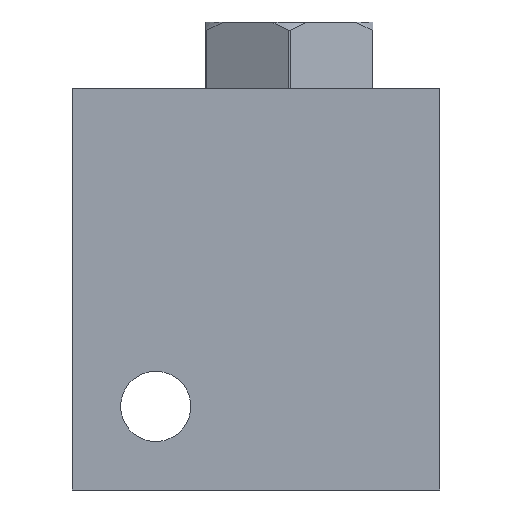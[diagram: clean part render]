
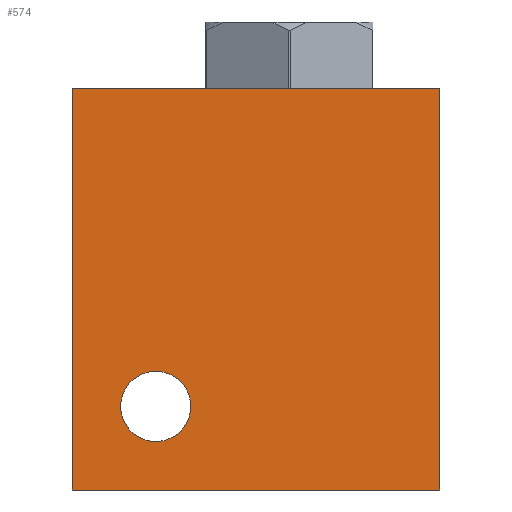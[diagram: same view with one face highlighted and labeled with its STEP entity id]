
A CAD part, left-side view. The second image highlights one B-rep face of the part: STEP entity #574.
In plain terms, the highlighted planar face has unit normal (-1, 0, 0).
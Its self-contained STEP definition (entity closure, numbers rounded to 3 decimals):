
#20=FACE_BOUND('',#131,.T.);
#21=FACE_BOUND('',#132,.T.);
#49=CIRCLE('',#613,2.1);
#131=EDGE_LOOP('',(#466));
#132=EDGE_LOOP('',(#467,#468,#469,#470));
#168=LINE('',#963,#204);
#170=LINE('',#967,#206);
#171=LINE('',#969,#207);
#172=LINE('',#970,#208);
#204=VECTOR('',#778,24.);
#206=VECTOR('',#782,22.);
#207=VECTOR('',#783,24.);
#208=VECTOR('',#784,22.);
#259=VERTEX_POINT('',#922);
#271=VERTEX_POINT('',#960);
#272=VERTEX_POINT('',#962);
#273=VERTEX_POINT('',#966);
#274=VERTEX_POINT('',#968);
#326=EDGE_CURVE('',#259,#259,#49,.T.);
#342=EDGE_CURVE('',#272,#271,#168,.T.);
#344=EDGE_CURVE('',#271,#273,#170,.T.);
#345=EDGE_CURVE('',#274,#273,#171,.T.);
#346=EDGE_CURVE('',#272,#274,#172,.T.);
#466=ORIENTED_EDGE('',*,*,#326,.T.);
#467=ORIENTED_EDGE('',*,*,#344,.T.);
#468=ORIENTED_EDGE('',*,*,#345,.F.);
#469=ORIENTED_EDGE('',*,*,#346,.F.);
#470=ORIENTED_EDGE('',*,*,#342,.T.);
#509=PLANE('',#635);
#574=ADVANCED_FACE('',(#20,#21),#509,.T.);
#613=AXIS2_PLACEMENT_3D('',#923,#729,#730);
#635=AXIS2_PLACEMENT_3D('',#965,#780,#781);
#729=DIRECTION('center_axis',(1.,0.,0.));
#730=DIRECTION('ref_axis',(0.,0.,1.));
#778=DIRECTION('',(0.,0.,1.));
#780=DIRECTION('center_axis',(-1.,0.,0.));
#781=DIRECTION('ref_axis',(0.,0.,1.));
#782=DIRECTION('',(0.,1.,0.));
#783=DIRECTION('',(0.,0.,1.));
#784=DIRECTION('',(0.,1.,0.));
#922=CARTESIAN_POINT('',(-6.,6.,2.9));
#923=CARTESIAN_POINT('Origin',(-6.,6.,5.));
#960=CARTESIAN_POINT('',(-6.,-11.,24.));
#962=CARTESIAN_POINT('',(-6.,-11.,0.));
#963=CARTESIAN_POINT('',(-6.,-11.,0.));
#965=CARTESIAN_POINT('Origin',(-6.,-11.,0.));
#966=CARTESIAN_POINT('',(-6.,11.,24.));
#967=CARTESIAN_POINT('',(-6.,-11.,24.));
#968=CARTESIAN_POINT('',(-6.,11.,0.));
#969=CARTESIAN_POINT('',(-6.,11.,0.));
#970=CARTESIAN_POINT('',(-6.,-11.,0.));
